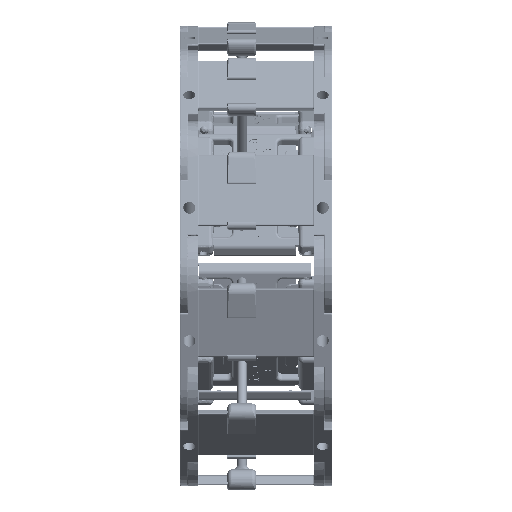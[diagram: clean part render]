
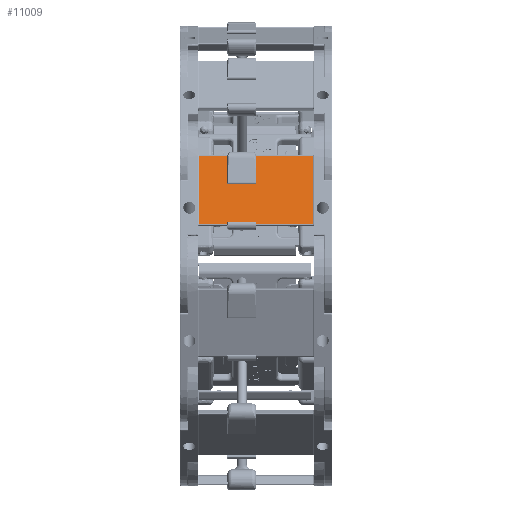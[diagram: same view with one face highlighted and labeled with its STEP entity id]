
A CAD part, front view. The second image highlights one B-rep face of the part: STEP entity #11009.
In plain terms, the highlighted planar face has unit normal (0, -0.967, 0.255) as drawn and (0.132, 0, 0.991) by its records, which use the part's own axes.
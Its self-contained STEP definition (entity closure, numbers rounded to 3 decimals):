
#10796=CARTESIAN_POINT('',(73.666,4.466,131.288));
#10797=VERTEX_POINT('',#10796);
#10867=CARTESIAN_POINT('',(44.922,4.466,135.129));
#10868=VERTEX_POINT('',#10867);
#10869=CARTESIAN_POINT('',(73.666,4.466,131.288));
#10870=DIRECTION('',(-0.991,0.,0.132));
#10871=VECTOR('',#10870,29.);
#10872=LINE('',#10869,#10871);
#10873=EDGE_CURVE('',#10797,#10868,#10872,.T.);
#10979=CARTESIAN_POINT('',(74.685,3.966,131.152));
#10980=DIRECTION('',(0.132,0.,0.991));
#10981=DIRECTION('',(0.0,1.0,0.0));
#10982=AXIS2_PLACEMENT_3D('',#10979,#10980,#10981);
#10983=PLANE('',#10982);
#10984=ORIENTED_EDGE('',*,*,#10873,.F.);
#10985=CARTESIAN_POINT('',(73.666,51.466,131.288));
#10986=VERTEX_POINT('',#10985);
#10987=CARTESIAN_POINT('',(73.666,51.466,131.288));
#10988=DIRECTION('',(0.0,-1.0,0.0));
#10989=VECTOR('',#10988,47.);
#10990=LINE('',#10987,#10989);
#10991=EDGE_CURVE('',#10986,#10797,#10990,.T.);
#10992=ORIENTED_EDGE('',*,*,#10991,.F.);
#10993=CARTESIAN_POINT('',(44.922,51.466,135.129));
#10994=VERTEX_POINT('',#10993);
#10995=CARTESIAN_POINT('',(44.922,51.466,135.129));
#10996=DIRECTION('',(0.991,0.,-0.132));
#10997=VECTOR('',#10996,29.);
#10998=LINE('',#10995,#10997);
#10999=EDGE_CURVE('',#10994,#10986,#10998,.T.);
#11000=ORIENTED_EDGE('',*,*,#10999,.F.);
#11001=CARTESIAN_POINT('',(44.922,4.466,135.129));
#11002=DIRECTION('',(0.0,1.0,0.0));
#11003=VECTOR('',#11002,47.);
#11004=LINE('',#11001,#11003);
#11005=EDGE_CURVE('',#10868,#10994,#11004,.T.);
#11006=ORIENTED_EDGE('',*,*,#11005,.F.);
#11007=EDGE_LOOP('',(#10984,#10992,#11000,#11006));
#11008=FACE_OUTER_BOUND('',#11007,.T.);
#11009=ADVANCED_FACE('',(#11008),#10983,.T.);
